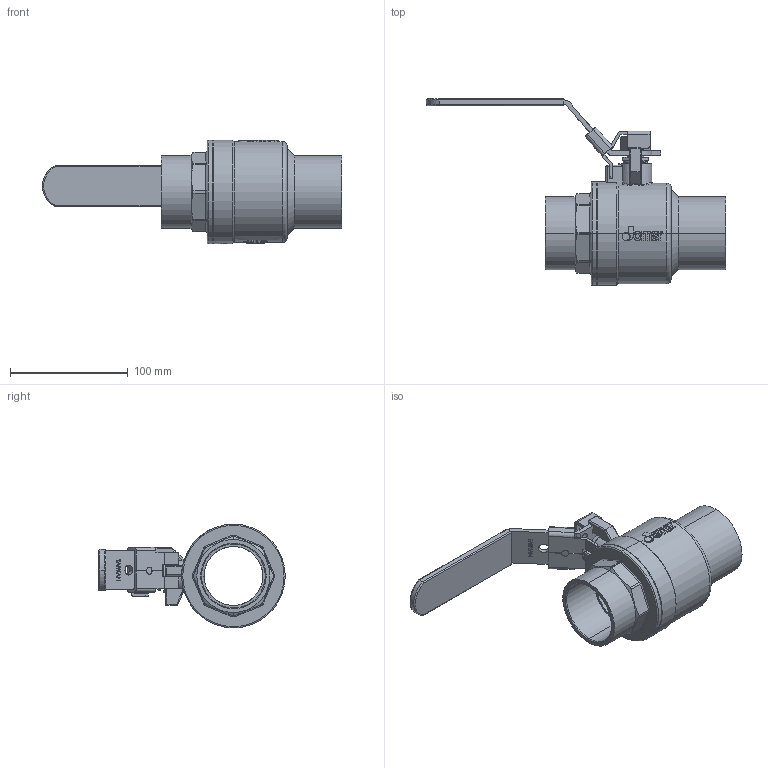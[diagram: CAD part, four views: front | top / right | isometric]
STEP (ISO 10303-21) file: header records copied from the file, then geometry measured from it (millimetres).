
FILE_DESCRIPTION (( 'STEP AP203' ), '1' );
FILE_NAME ('ABL758-Τ本玛-2''''JOMAR 瞴恢砰舱-CxC.STEP', '2025-12-15T08:32:53', ( '' ), ( '' ), 'SwSTEP 2.0', 'SolidWorks 2018', '' );
FILE_SCHEMA (( 'CONFIG_CONTROL_DESIGN' ));
Length unit declared in the file: millimetre
Products named in the file (14): EBL308; RBL267; DN40 & DN50-CBL747-白色膠套-T&G-200CSSG-LH; BBL718A-2''''JOMAR球閥-CxC帽蓋-無鉛-端面無插溝; DN50-掛鎖; BBL718-2''''JOMAR球閥體-CxC-無鉛-端面無插溝; DN50-本玛рも-CBL238э; ABL758-有掛鎖-2''''JOMAR 球閥體組合-CxC; DN40-DN50-CBL747-HANDLE & SLEEVE 掛鎖組合; NBL268; EBL208B; EBL208C; TBL269; GBL218
Assembly tree (14 placements, depth 3):
  ABL758-有掛鎖-2''''JOMAR 球閥體組合-CxC
    BBL718-2''''JOMAR球閥體-CxC-無鉛-端面無插溝
    EBL208C
    EBL208B
    RBL267
    GBL218
    DN40-DN50-CBL747-HANDLE & SLEEVE 掛鎖組合
      DN50-本玛рも-CBL238э
      DN50-掛鎖
    BBL718A-2''''JOMAR球閥-CxC帽蓋-無鉛-端面無插溝
    EBL308  x2
    NBL268
    TBL269
    DN40 & DN50-CBL747-白色膠套-T&G-200CSSG-LH
Bounding box: 253.9 x 158.31 x 88 mm (x, y, z)
Volume: 357318 mm3; surface area: 175516.9 mm2
Topology: 13 solids, 13 shells, 2335 faces, 6265 edges, 4132 vertices
Faces by surface type: plane 1240, bspline 660, cylinder 321, cone 66, torus 34, sphere 14
Entity records: 121577 total; most frequent: CARTESIAN_POINT 67070, ORIENTED_EDGE 12454, DIRECTION 8411, EDGE_CURVE 6227, VERTEX_POINT 4112, VECTOR 3903, LINE 3903, EDGE_LOOP 2533
